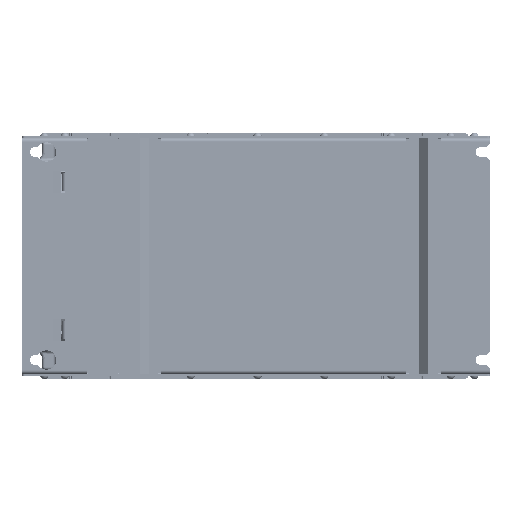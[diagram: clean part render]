
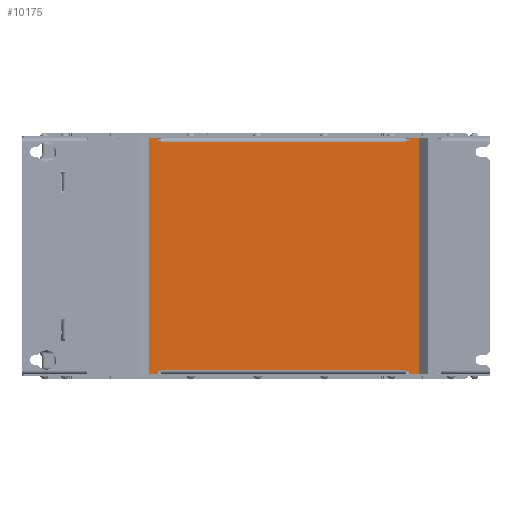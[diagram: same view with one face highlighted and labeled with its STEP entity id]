
A CAD part, front view. The second image highlights one B-rep face of the part: STEP entity #10175.
In plain terms, the highlighted planar face has unit normal (0, -1, 0) as drawn and (0, 0, -1) by its records, which use the part's own axes.
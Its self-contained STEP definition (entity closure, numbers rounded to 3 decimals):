
#6866=CARTESIAN_POINT('',(-79.,-4.5,0.));
#6867=DIRECTION('',(0.,0.,1.));
#6868=DIRECTION('',(-1.,0.,0.));
#6869=AXIS2_PLACEMENT_3D('',#6866,#6867,#6868);
#6871=DIRECTION('',(1.,0.,0.));
#6872=VECTOR('',#6871,0.5);
#6873=CARTESIAN_POINT('',(-77.5,-7.,0.));
#6874=LINE('',#6873,#6872);
#6875=DIRECTION('',(-1.,0.,0.));
#6876=VECTOR('',#6875,1.5);
#6877=CARTESIAN_POINT('',(-77.5,-174.,0.));
#6878=LINE('',#6877,#6876);
#6879=CARTESIAN_POINT('',(-79.,-174.5,0.));
#6880=DIRECTION('',(0.,0.,1.));
#6881=DIRECTION('',(0.,1.,0.));
#6882=AXIS2_PLACEMENT_3D('',#6879,#6880,#6881);
#6884=DIRECTION('',(0.,1.,0.));
#6885=VECTOR('',#6884,6.5);
#6886=CARTESIAN_POINT('',(79.5,-181.,0.));
#6887=LINE('',#6886,#6885);
#6888=CARTESIAN_POINT('',(79.,-174.5,0.));
#6889=DIRECTION('',(0.,0.,1.));
#6890=DIRECTION('',(1.,0.,0.));
#6891=AXIS2_PLACEMENT_3D('',#6888,#6889,#6890);
#6893=DIRECTION('',(-1.,0.,0.));
#6894=VECTOR('',#6893,0.5);
#6895=CARTESIAN_POINT('',(77.5,-172.,0.));
#6896=LINE('',#6895,#6894);
#6897=DIRECTION('',(1.,0.,0.));
#6898=VECTOR('',#6897,1.5);
#6899=CARTESIAN_POINT('',(77.5,-5.,0.));
#6900=LINE('',#6899,#6898);
#6901=CARTESIAN_POINT('',(79.,-4.5,0.));
#6902=DIRECTION('',(0.,0.,1.));
#6903=DIRECTION('',(0.,-1.,0.));
#6904=AXIS2_PLACEMENT_3D('',#6901,#6902,#6903);
#6906=DIRECTION('',(0.,1.,0.));
#6907=VECTOR('',#6906,5.5);
#6908=CARTESIAN_POINT('',(79.5,-4.5,0.));
#6909=LINE('',#6908,#6907);
#6910=DIRECTION('',(-1.,0.,0.));
#6911=VECTOR('',#6910,159.);
#6912=CARTESIAN_POINT('',(79.5,1.,0.));
#6913=LINE('',#6912,#6911);
#6986=DIRECTION('',(0.,1.,0.));
#6987=VECTOR('',#6986,5.5);
#6988=CARTESIAN_POINT('',(-79.5,-4.5,0.));
#6989=LINE('',#6988,#6987);
#7038=DIRECTION('',(0.,-1.,0.));
#7039=VECTOR('',#7038,2.);
#7040=CARTESIAN_POINT('',(77.5,-5.,0.));
#7041=LINE('',#7040,#7039);
#7046=DIRECTION('',(-1.,0.,0.));
#7047=VECTOR('',#7046,0.5);
#7048=CARTESIAN_POINT('',(77.5,-7.,0.));
#7049=LINE('',#7048,#7047);
#7055=DIRECTION('',(0.,-1.,0.));
#7056=VECTOR('',#7055,165.);
#7057=CARTESIAN_POINT('',(77.,-7.,0.));
#7058=LINE('',#7057,#7056);
#7275=DIRECTION('',(0.,-1.,0.));
#7276=VECTOR('',#7275,2.);
#7277=CARTESIAN_POINT('',(77.5,-172.,0.));
#7278=LINE('',#7277,#7276);
#7292=DIRECTION('',(1.,0.,0.));
#7293=VECTOR('',#7292,1.5);
#7294=CARTESIAN_POINT('',(77.5,-174.,0.));
#7295=LINE('',#7294,#7293);
#7312=DIRECTION('',(-1.,0.,0.));
#7313=VECTOR('',#7312,159.);
#7314=CARTESIAN_POINT('',(79.5,-181.,0.));
#7315=LINE('',#7314,#7313);
#7340=DIRECTION('',(0.,1.,0.));
#7341=VECTOR('',#7340,6.5);
#7342=CARTESIAN_POINT('',(-79.5,-181.,0.));
#7343=LINE('',#7342,#7341);
#7360=DIRECTION('',(0.,1.,0.));
#7361=VECTOR('',#7360,2.);
#7362=CARTESIAN_POINT('',(-77.5,-174.,0.));
#7363=LINE('',#7362,#7361);
#7368=DIRECTION('',(1.,0.,0.));
#7369=VECTOR('',#7368,0.5);
#7370=CARTESIAN_POINT('',(-77.5,-172.,0.));
#7371=LINE('',#7370,#7369);
#7381=DIRECTION('',(0.,1.,0.));
#7382=VECTOR('',#7381,165.);
#7383=CARTESIAN_POINT('',(-77.,-172.,0.));
#7384=LINE('',#7383,#7382);
#7597=DIRECTION('',(0.,1.,0.));
#7598=VECTOR('',#7597,2.);
#7599=CARTESIAN_POINT('',(-77.5,-7.,0.));
#7600=LINE('',#7599,#7598);
#7614=DIRECTION('',(-1.,0.,0.));
#7615=VECTOR('',#7614,1.5);
#7616=CARTESIAN_POINT('',(-77.5,-5.,0.));
#7617=LINE('',#7616,#7615);
#9356=CARTESIAN_POINT('',(-79.5,-4.5,0.));
#9357=CARTESIAN_POINT('',(-79.,-5.,0.));
#9358=VERTEX_POINT('',#9356);
#9359=VERTEX_POINT('',#9357);
#9360=CARTESIAN_POINT('',(-77.5,-5.,0.));
#9361=VERTEX_POINT('',#9360);
#9362=CARTESIAN_POINT('',(-77.5,-7.,0.));
#9363=VERTEX_POINT('',#9362);
#9364=CARTESIAN_POINT('',(-77.,-7.,0.));
#9365=VERTEX_POINT('',#9364);
#9366=CARTESIAN_POINT('',(-77.,-172.,0.));
#9367=VERTEX_POINT('',#9366);
#9368=CARTESIAN_POINT('',(-77.5,-172.,0.));
#9369=VERTEX_POINT('',#9368);
#9370=CARTESIAN_POINT('',(-77.5,-174.,0.));
#9371=VERTEX_POINT('',#9370);
#9372=CARTESIAN_POINT('',(-79.,-174.,0.));
#9373=VERTEX_POINT('',#9372);
#9374=CARTESIAN_POINT('',(-79.5,-174.5,0.));
#9375=VERTEX_POINT('',#9374);
#9376=CARTESIAN_POINT('',(-79.5,-181.,0.));
#9377=VERTEX_POINT('',#9376);
#9378=CARTESIAN_POINT('',(79.5,-181.,0.));
#9379=VERTEX_POINT('',#9378);
#9380=CARTESIAN_POINT('',(79.5,-174.5,0.));
#9381=VERTEX_POINT('',#9380);
#9382=CARTESIAN_POINT('',(79.,-174.,0.));
#9383=VERTEX_POINT('',#9382);
#9384=CARTESIAN_POINT('',(77.5,-174.,0.));
#9385=VERTEX_POINT('',#9384);
#9386=CARTESIAN_POINT('',(77.5,-172.,0.));
#9387=VERTEX_POINT('',#9386);
#9388=CARTESIAN_POINT('',(77.,-172.,0.));
#9389=VERTEX_POINT('',#9388);
#9390=CARTESIAN_POINT('',(77.,-7.,0.));
#9391=VERTEX_POINT('',#9390);
#9392=CARTESIAN_POINT('',(77.5,-7.,0.));
#9393=VERTEX_POINT('',#9392);
#9394=CARTESIAN_POINT('',(77.5,-5.,0.));
#9395=VERTEX_POINT('',#9394);
#9396=CARTESIAN_POINT('',(79.,-5.,0.));
#9397=VERTEX_POINT('',#9396);
#9398=CARTESIAN_POINT('',(79.5,-4.5,0.));
#9399=VERTEX_POINT('',#9398);
#9400=CARTESIAN_POINT('',(79.5,1.,0.));
#9401=VERTEX_POINT('',#9400);
#9402=CARTESIAN_POINT('',(-79.5,1.,0.));
#9403=VERTEX_POINT('',#9402);
#10120=CARTESIAN_POINT('',(0.,0.,0.));
#10121=DIRECTION('',(0.,0.,1.));
#10122=DIRECTION('',(1.,0.,0.));
#10123=AXIS2_PLACEMENT_3D('',#10120,#10121,#10122);
#10124=PLANE('',#10123);
#10126=ORIENTED_EDGE('',*,*,#10125,.T.);
#10128=ORIENTED_EDGE('',*,*,#10127,.F.);
#10130=ORIENTED_EDGE('',*,*,#10129,.F.);
#10132=ORIENTED_EDGE('',*,*,#10131,.T.);
#10134=ORIENTED_EDGE('',*,*,#10133,.F.);
#10136=ORIENTED_EDGE('',*,*,#10135,.F.);
#10138=ORIENTED_EDGE('',*,*,#10137,.F.);
#10140=ORIENTED_EDGE('',*,*,#10139,.T.);
#10142=ORIENTED_EDGE('',*,*,#10141,.T.);
#10144=ORIENTED_EDGE('',*,*,#10143,.F.);
#10146=ORIENTED_EDGE('',*,*,#10145,.F.);
#10148=ORIENTED_EDGE('',*,*,#10147,.T.);
#10150=ORIENTED_EDGE('',*,*,#10149,.T.);
#10152=ORIENTED_EDGE('',*,*,#10151,.F.);
#10154=ORIENTED_EDGE('',*,*,#10153,.F.);
#10156=ORIENTED_EDGE('',*,*,#10155,.T.);
#10158=ORIENTED_EDGE('',*,*,#10157,.F.);
#10160=ORIENTED_EDGE('',*,*,#10159,.F.);
#10162=ORIENTED_EDGE('',*,*,#10161,.F.);
#10164=ORIENTED_EDGE('',*,*,#10163,.T.);
#10166=ORIENTED_EDGE('',*,*,#10165,.T.);
#10168=ORIENTED_EDGE('',*,*,#10167,.T.);
#10170=ORIENTED_EDGE('',*,*,#10169,.T.);
#10172=ORIENTED_EDGE('',*,*,#10171,.F.);
#10173=EDGE_LOOP('',(#10126,#10128,#10130,#10132,#10134,#10136,#10138,#10140,
#10142,#10144,#10146,#10148,#10150,#10152,#10154,#10156,#10158,#10160,#10162,
#10164,#10166,#10168,#10170,#10172));
#10174=FACE_OUTER_BOUND('',#10173,.F.);
#10175=ADVANCED_FACE('',(#10174),#10124,.F.);
#6870=CIRCLE('',#6869,0.5);
#6883=CIRCLE('',#6882,0.5);
#6892=CIRCLE('',#6891,0.5);
#6905=CIRCLE('',#6904,0.5);
#10125=EDGE_CURVE('',#9358,#9359,#6870,.T.);
#10127=EDGE_CURVE('',#9361,#9359,#7617,.T.);
#10129=EDGE_CURVE('',#9363,#9361,#7600,.T.);
#10131=EDGE_CURVE('',#9363,#9365,#6874,.T.);
#10133=EDGE_CURVE('',#9367,#9365,#7384,.T.);
#10135=EDGE_CURVE('',#9369,#9367,#7371,.T.);
#10137=EDGE_CURVE('',#9371,#9369,#7363,.T.);
#10139=EDGE_CURVE('',#9371,#9373,#6878,.T.);
#10141=EDGE_CURVE('',#9373,#9375,#6883,.T.);
#10143=EDGE_CURVE('',#9377,#9375,#7343,.T.);
#10145=EDGE_CURVE('',#9379,#9377,#7315,.T.);
#10147=EDGE_CURVE('',#9379,#9381,#6887,.T.);
#10149=EDGE_CURVE('',#9381,#9383,#6892,.T.);
#10151=EDGE_CURVE('',#9385,#9383,#7295,.T.);
#10153=EDGE_CURVE('',#9387,#9385,#7278,.T.);
#10155=EDGE_CURVE('',#9387,#9389,#6896,.T.);
#10157=EDGE_CURVE('',#9391,#9389,#7058,.T.);
#10159=EDGE_CURVE('',#9393,#9391,#7049,.T.);
#10161=EDGE_CURVE('',#9395,#9393,#7041,.T.);
#10163=EDGE_CURVE('',#9395,#9397,#6900,.T.);
#10165=EDGE_CURVE('',#9397,#9399,#6905,.T.);
#10167=EDGE_CURVE('',#9399,#9401,#6909,.T.);
#10169=EDGE_CURVE('',#9401,#9403,#6913,.T.);
#10171=EDGE_CURVE('',#9358,#9403,#6989,.T.);
